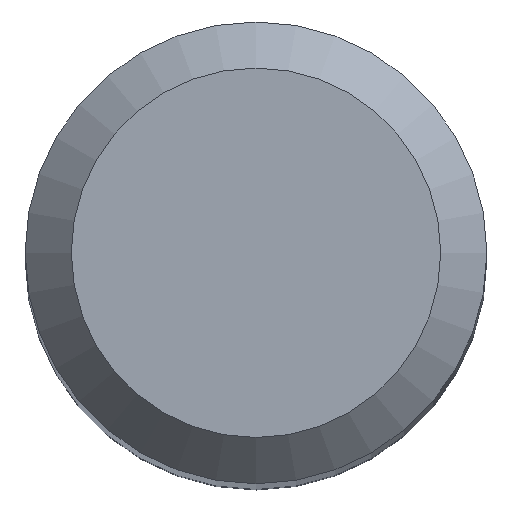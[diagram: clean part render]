
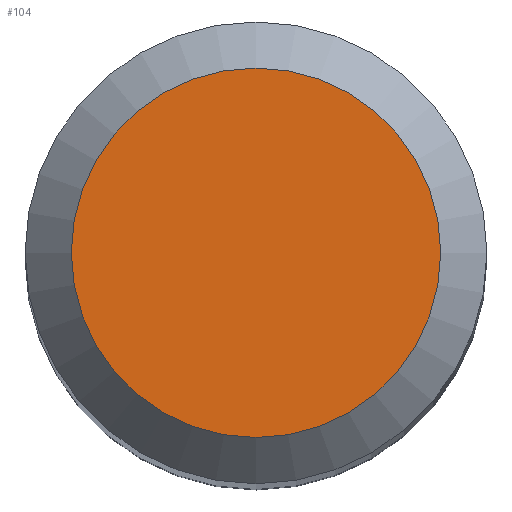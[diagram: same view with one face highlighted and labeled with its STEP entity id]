
A CAD part, top view. The second image highlights one B-rep face of the part: STEP entity #104.
In plain terms, the highlighted planar face has unit normal (0, 0, 1).
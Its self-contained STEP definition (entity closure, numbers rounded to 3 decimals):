
#88=CARTESIAN_POINT('',(4.8,0.0,100.0));
#89=DIRECTION('',(0.0,0.0,1.0));
#90=DIRECTION('',(1.0,0.0,0.0));
#91=AXIS2_PLACEMENT_3D('',#88,#89,#90);
#92=PLANE('',#91);
#93=CARTESIAN_POINT('',(-4.8,0.0,100.0));
#94=VERTEX_POINT('',#93);
#95=CARTESIAN_POINT('',(0.0,0.0,100.0));
#96=DIRECTION('',(0.0,0.0,-1.0));
#97=DIRECTION('',(-1.0,0.0,0.0));
#98=AXIS2_PLACEMENT_3D('',#95,#96,#97);
#99=CIRCLE('',#98,4.8);
#100=EDGE_CURVE('',#94,#94,#99,.T.);
#101=ORIENTED_EDGE('',*,*,#100,.F.);
#102=EDGE_LOOP('',(#101));
#103=FACE_OUTER_BOUND('',#102,.T.);
#104=ADVANCED_FACE('',(#103),#92,.T.);
